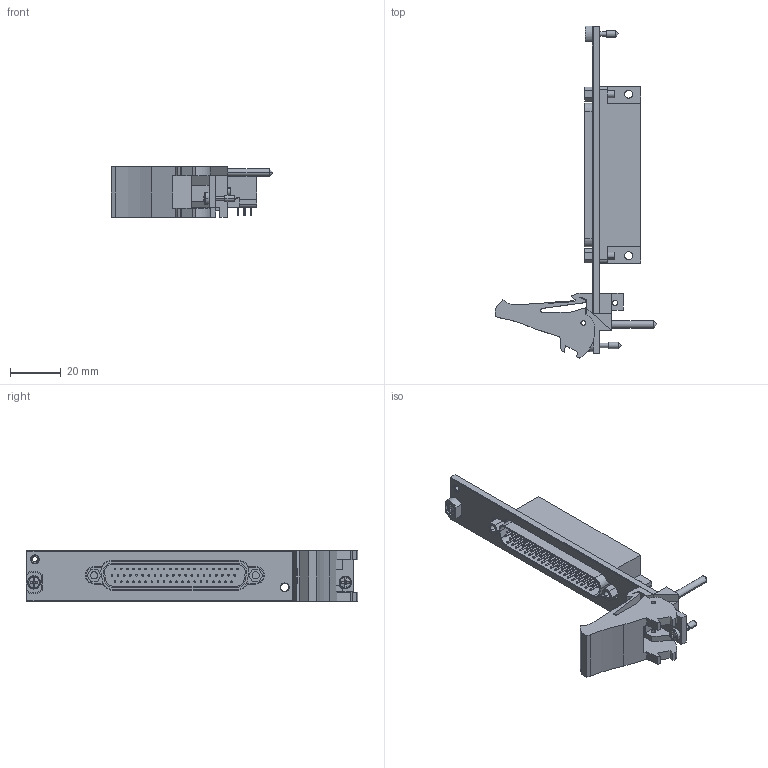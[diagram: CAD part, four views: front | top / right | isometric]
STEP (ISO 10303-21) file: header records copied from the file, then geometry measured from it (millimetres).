
FILE_DESCRIPTION((''),'2;1');
FILE_NAME('CU_PXI-2566','2009-09-08T',('jjorden'),(''),'PRO/ENGINEER BY PARAMETRIC TECHNOLOGY CORPORATION, 2006080','PRO/ENGINEER BY PARAMETRIC TECHNOLOGY CORPORATION, 2006080','');
FILE_SCHEMA(('CONFIG_CONTROL_DESIGN'));
Length unit declared in the file: inch
Products named in the file (1): CU_PXI-2566
Bounding box: 63.53 x 130.51 x 20.02 mm (x, y, z)
Volume: 26469.8 mm3; surface area: 17403.1 mm2
Topology: 1 solids, 2 shells, 732 faces, 1694 edges, 1115 vertices
Faces by surface type: plane 361, cylinder 353, cone 10, torus 4, sphere 4
Entity records: 21202 total; most frequent: DIRECTION 3889, CARTESIAN_POINT 3697, ORIENTED_EDGE 3380, EDGE_CURVE 1690, AXIS2_PLACEMENT_3D 1484, VERTEX_POINT 1115, VECTOR 921, LINE 921
